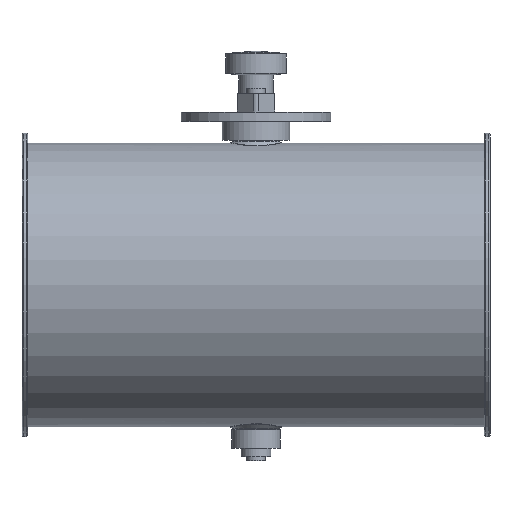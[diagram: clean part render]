
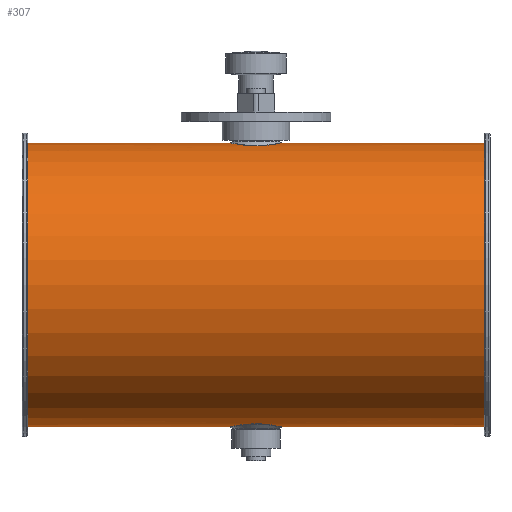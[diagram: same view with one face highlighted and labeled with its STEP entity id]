
A CAD part, top view. The second image highlights one B-rep face of the part: STEP entity #307.
In plain terms, the highlighted cylindrical face has radius 75.8 mm (diameter 151.6 mm), a full revolution.
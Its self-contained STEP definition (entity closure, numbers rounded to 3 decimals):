
#115=B_SPLINE_CURVE_WITH_KNOTS('',3,(#2043,#2044,#2045,#2046,#2047,#2048,
#2049,#2050,#2051,#2052,#2053,#2054,#2055,#2056,#2057,#2058,#2059,#2060,
#2061,#2062,#2063,#2064),.UNSPECIFIED.,.T.,.F.,(2,2,2,2,2,2,2,2,2,2,2,2,
2),(-0.062,0.,0.125,0.25,0.375,0.438,0.5,0.625,0.75,0.875,
0.938,1.,1.125),.UNSPECIFIED.);
#116=B_SPLINE_CURVE_WITH_KNOTS('',3,(#2066,#2067,#2068,#2069,#2070,#2071,
#2072,#2073,#2074,#2075,#2076,#2077,#2078,#2079,#2080,#2081,#2082,#2083,
#2084,#2085,#2086,#2087),.UNSPECIFIED.,.T.,.F.,(2,2,2,2,2,2,2,2,2,2,2,2,
2),(-0.125,0.,0.063,0.125,0.25,0.375,0.5,0.563,0.625,0.75,0.875,1.,1.063),
 .UNSPECIFIED.);
#264=CYLINDRICAL_SURFACE('',#1430,75.8);
#307=ADVANCED_FACE('',(#471,#472,#473,#474),#264,.T.);
#471=FACE_BOUND('',#643,.T.);
#472=FACE_BOUND('',#644,.T.);
#473=FACE_BOUND('',#645,.T.);
#474=FACE_BOUND('',#646,.T.);
#643=EDGE_LOOP('',(#851));
#644=EDGE_LOOP('',(#852));
#645=EDGE_LOOP('',(#853));
#646=EDGE_LOOP('',(#854));
#851=ORIENTED_EDGE('',*,*,#1201,.T.);
#852=ORIENTED_EDGE('',*,*,#1202,.T.);
#853=ORIENTED_EDGE('',*,*,#1203,.T.);
#854=ORIENTED_EDGE('',*,*,#1204,.F.);
#1081=VERTEX_POINT('',#2042);
#1082=VERTEX_POINT('',#2065);
#1083=VERTEX_POINT('',#2088);
#1084=VERTEX_POINT('',#2090);
#1201=EDGE_CURVE('',#1081,#1081,#1325,.T.);
#1202=EDGE_CURVE('',#1082,#1082,#115,.T.);
#1203=EDGE_CURVE('',#1083,#1083,#116,.T.);
#1204=EDGE_CURVE('',#1084,#1084,#1326,.T.);
#1325=CIRCLE('',#1428,75.8);
#1326=CIRCLE('',#1429,75.8);
#1428=AXIS2_PLACEMENT_3D('',#2041,#1658,#1659);
#1429=AXIS2_PLACEMENT_3D('',#2089,#1660,#1661);
#1430=AXIS2_PLACEMENT_3D('',#2091,#1662,#1663);
#1658=DIRECTION('',(1.,0.,0.));
#1659=DIRECTION('',(0.,0.,1.));
#1660=DIRECTION('',(1.,0.,0.));
#1661=DIRECTION('',(0.,0.,1.));
#1662=DIRECTION('',(1.,0.,0.));
#1663=DIRECTION('',(0.,0.,-1.));
#2041=CARTESIAN_POINT('',(-122.,-33.3,125.));
#2042=CARTESIAN_POINT('',(-122.,-33.3,200.8));
#2043=CARTESIAN_POINT('',(-1.915,-107.469,109.347));
#2044=CARTESIAN_POINT('',(-7.562,-107.826,111.109));
#2045=CARTESIAN_POINT('',(-10.621,-108.374,113.968));
#2046=CARTESIAN_POINT('',(-14.122,-109.069,120.892));
#2047=CARTESIAN_POINT('',(-14.603,-109.195,125.036));
#2048=CARTESIAN_POINT('',(-12.852,-108.813,132.605));
#2049=CARTESIAN_POINT('',(-10.608,-108.314,136.114));
#2050=CARTESIAN_POINT('',(-5.817,-107.729,139.396));
#2051=CARTESIAN_POINT('',(-3.978,-107.568,140.164));
#2052=CARTESIAN_POINT('',(-0.112,-107.436,140.797));
#2053=CARTESIAN_POINT('',(1.892,-107.468,140.655));
#2054=CARTESIAN_POINT('',(7.524,-107.822,138.912));
#2055=CARTESIAN_POINT('',(10.597,-108.369,136.071));
#2056=CARTESIAN_POINT('',(14.133,-109.071,129.094));
#2057=CARTESIAN_POINT('',(14.606,-109.195,124.972));
#2058=CARTESIAN_POINT('',(12.847,-108.811,117.377));
#2059=CARTESIAN_POINT('',(10.591,-108.311,113.868));
#2060=CARTESIAN_POINT('',(5.799,-107.727,110.595));
#2061=CARTESIAN_POINT('',(3.94,-107.566,109.826));
#2062=CARTESIAN_POINT('',(0.102,-107.437,109.205));
#2063=CARTESIAN_POINT('',(-1.915,-107.469,109.347));
#2064=CARTESIAN_POINT('',(-7.562,-107.826,111.109));
#2065=CARTESIAN_POINT('',(-3.798,-107.588,109.935));
#2066=CARTESIAN_POINT('',(-7.563,41.226,111.109));
#2067=CARTESIAN_POINT('',(-1.915,40.869,109.347));
#2068=CARTESIAN_POINT('',(0.083,40.837,109.204));
#2069=CARTESIAN_POINT('',(3.931,40.966,109.822));
#2070=CARTESIAN_POINT('',(5.783,41.125,110.584));
#2071=CARTESIAN_POINT('',(10.614,41.714,113.883));
#2072=CARTESIAN_POINT('',(12.856,42.213,117.393));
#2073=CARTESIAN_POINT('',(14.607,42.596,124.998));
#2074=CARTESIAN_POINT('',(14.117,42.467,129.126));
#2075=CARTESIAN_POINT('',(10.611,41.772,136.043));
#2076=CARTESIAN_POINT('',(7.552,41.226,138.889));
#2077=CARTESIAN_POINT('',(1.943,40.87,140.647));
#2078=CARTESIAN_POINT('',(-0.037,40.836,140.8));
#2079=CARTESIAN_POINT('',(-3.935,40.965,140.18));
#2080=CARTESIAN_POINT('',(-5.777,41.125,139.417));
#2081=CARTESIAN_POINT('',(-10.595,41.711,136.134));
#2082=CARTESIAN_POINT('',(-12.844,42.211,132.638));
#2083=CARTESIAN_POINT('',(-14.61,42.596,125.007));
#2084=CARTESIAN_POINT('',(-14.139,42.472,120.921));
#2085=CARTESIAN_POINT('',(-10.599,41.769,113.927));
#2086=CARTESIAN_POINT('',(-7.563,41.226,111.109));
#2087=CARTESIAN_POINT('',(-1.915,40.869,109.347));
#2088=CARTESIAN_POINT('',(-3.798,40.988,109.935));
#2089=CARTESIAN_POINT('',(122.,-33.3,125.));
#2090=CARTESIAN_POINT('',(122.,-33.3,200.8));
#2091=CARTESIAN_POINT('',(-125.,-33.3,125.));
